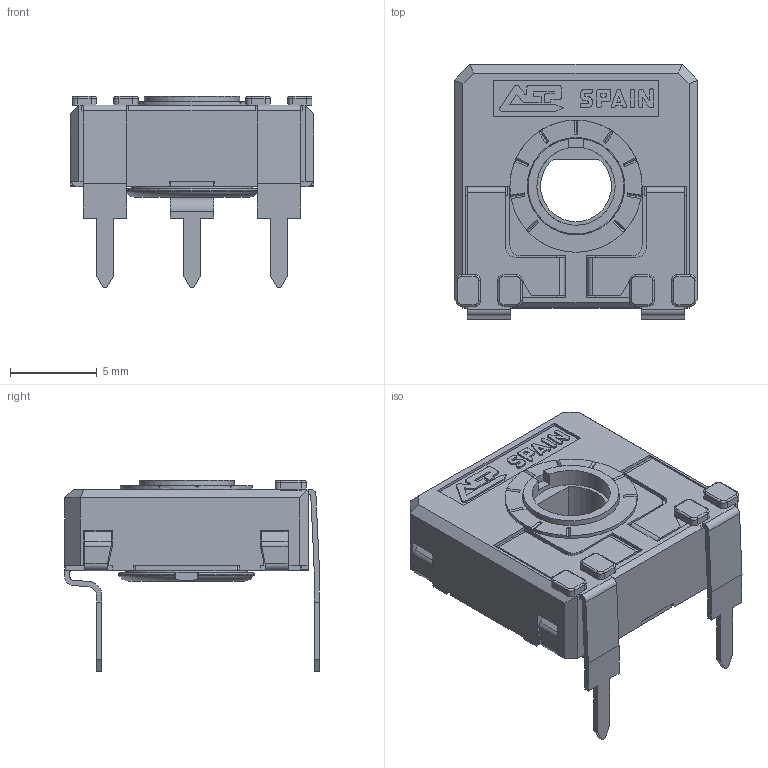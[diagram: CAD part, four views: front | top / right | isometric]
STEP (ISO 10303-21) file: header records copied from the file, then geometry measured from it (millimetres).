
FILE_DESCRIPTION(/* description */ (''),/* implementation_level */ '2;1');
FILE_NAME(/* name */ 'COMCA14DV12,5.stp',/* time_stamp */ '2026-04-01T16:27:34+02:00',/* author */ ('CEM'),/* organization */ (''),/* preprocessor_version */ 'ST-DEVELOPER v20.1',/* originating_system */ 'Autodesk Inventor 2026',/* authorisation */ '');
FILE_SCHEMA (('AUTOMOTIVE_DESIGN { 1 0 10303 214 3 1 1 }'));
Length unit declared in the file: millimetre
Products named in the file (1): CA14DV12,5
Bounding box: 14 x 14.65 x 11 mm (x, y, z)
Volume: 532.7 mm3; surface area: 1492.8 mm2
Topology: 1 solids, 1 shells, 680 faces, 1919 edges, 1235 vertices
Faces by surface type: plane 501, cylinder 142, torus 23, bspline 8, cone 6
Full cylindrical faces by diameter (mm): 4.5 x1, 5.5 x1, 5.6 x1, 5.752 x1, 6.8 x1, 7.6 x1
Entity records: 22204 total; most frequent: CARTESIAN_POINT 4132, ORIENTED_EDGE 3838, DIRECTION 3583, EDGE_CURVE 1919, LINE 1511, VECTOR 1511, VERTEX_POINT 1235, AXIS2_PLACEMENT_3D 1036
